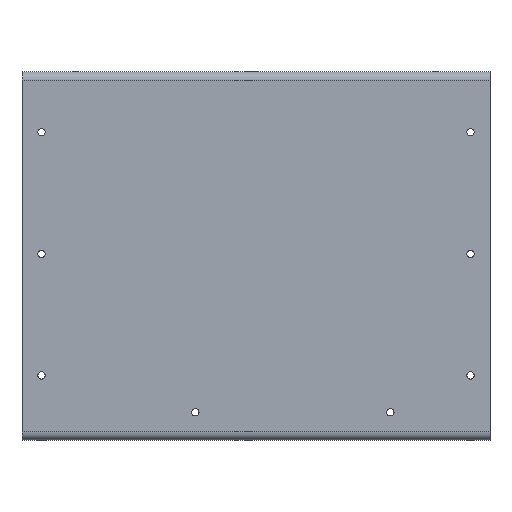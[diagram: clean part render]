
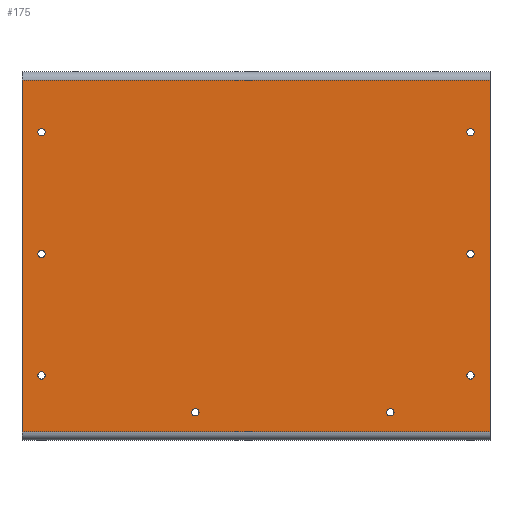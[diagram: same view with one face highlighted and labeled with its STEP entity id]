
A CAD part, left-side view. The second image highlights one B-rep face of the part: STEP entity #175.
In plain terms, the highlighted planar face has unit normal (-1, 0, 0).
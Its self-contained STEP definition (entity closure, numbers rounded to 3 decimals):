
#21 = EDGE_CURVE('',#22,#24,#26,.T.);
#22 = VERTEX_POINT('',#23);
#23 = CARTESIAN_POINT('',(0.,216.,4.));
#24 = VERTEX_POINT('',#25);
#25 = CARTESIAN_POINT('',(0.,216.,166.27));
#26 = LINE('',#27,#28);
#27 = CARTESIAN_POINT('',(0.,216.,0.));
#28 = VECTOR('',#29,1.);
#29 = DIRECTION('',(0.,0.,1.));
#175 = ADVANCED_FACE('',(#176,#201,#212,#223,#234,#245,#256,#267,#278),
  #289,.T.);
#176 = FACE_BOUND('',#177,.T.);
#177 = EDGE_LOOP('',(#178,#188,#194,#195));
#178 = ORIENTED_EDGE('',*,*,#179,.T.);
#179 = EDGE_CURVE('',#180,#182,#184,.T.);
#180 = VERTEX_POINT('',#181);
#181 = CARTESIAN_POINT('',(0.,0.,4.));
#182 = VERTEX_POINT('',#183);
#183 = CARTESIAN_POINT('',(0.,0.,166.27));
#184 = LINE('',#185,#186);
#185 = CARTESIAN_POINT('',(0.,0.,0.));
#186 = VECTOR('',#187,1.);
#187 = DIRECTION('',(0.,0.,1.));
#188 = ORIENTED_EDGE('',*,*,#189,.T.);
#189 = EDGE_CURVE('',#182,#24,#190,.T.);
#190 = LINE('',#191,#192);
#191 = CARTESIAN_POINT('',(0.,0.,166.27));
#192 = VECTOR('',#193,1.);
#193 = DIRECTION('',(-0.,1.,0.));
#194 = ORIENTED_EDGE('',*,*,#21,.F.);
#195 = ORIENTED_EDGE('',*,*,#196,.F.);
#196 = EDGE_CURVE('',#180,#22,#197,.T.);
#197 = LINE('',#198,#199);
#198 = CARTESIAN_POINT('',(0.,0.,4.));
#199 = VECTOR('',#200,1.);
#200 = DIRECTION('',(-0.,1.,0.));
#201 = FACE_BOUND('',#202,.T.);
#202 = EDGE_LOOP('',(#203));
#203 = ORIENTED_EDGE('',*,*,#204,.T.);
#204 = EDGE_CURVE('',#205,#205,#207,.T.);
#205 = VERTEX_POINT('',#206);
#206 = CARTESIAN_POINT('',(0.,207.,143.97));
#207 = CIRCLE('',#208,1.7);
#208 = AXIS2_PLACEMENT_3D('',#209,#210,#211);
#209 = CARTESIAN_POINT('',(0.,207.,142.27));
#210 = DIRECTION('',(1.,0.,0.));
#211 = DIRECTION('',(-0.,0.,1.));
#212 = FACE_BOUND('',#213,.T.);
#213 = EDGE_LOOP('',(#214));
#214 = ORIENTED_EDGE('',*,*,#215,.T.);
#215 = EDGE_CURVE('',#216,#216,#218,.T.);
#216 = VERTEX_POINT('',#217);
#217 = CARTESIAN_POINT('',(0.,207.,87.835));
#218 = CIRCLE('',#219,1.7);
#219 = AXIS2_PLACEMENT_3D('',#220,#221,#222);
#220 = CARTESIAN_POINT('',(0.,207.,86.135));
#221 = DIRECTION('',(1.,0.,0.));
#222 = DIRECTION('',(-0.,0.,1.));
#223 = FACE_BOUND('',#224,.T.);
#224 = EDGE_LOOP('',(#225));
#225 = ORIENTED_EDGE('',*,*,#226,.T.);
#226 = EDGE_CURVE('',#227,#227,#229,.T.);
#227 = VERTEX_POINT('',#228);
#228 = CARTESIAN_POINT('',(0.,207.,31.7));
#229 = CIRCLE('',#230,1.7);
#230 = AXIS2_PLACEMENT_3D('',#231,#232,#233);
#231 = CARTESIAN_POINT('',(0.,207.,30.));
#232 = DIRECTION('',(1.,0.,0.));
#233 = DIRECTION('',(-0.,0.,1.));
#234 = FACE_BOUND('',#235,.T.);
#235 = EDGE_LOOP('',(#236));
#236 = ORIENTED_EDGE('',*,*,#237,.T.);
#237 = EDGE_CURVE('',#238,#238,#240,.T.);
#238 = VERTEX_POINT('',#239);
#239 = CARTESIAN_POINT('',(0.,136.,14.7));
#240 = CIRCLE('',#241,1.7);
#241 = AXIS2_PLACEMENT_3D('',#242,#243,#244);
#242 = CARTESIAN_POINT('',(0.,136.,13.));
#243 = DIRECTION('',(1.,0.,0.));
#244 = DIRECTION('',(-0.,0.,1.));
#245 = FACE_BOUND('',#246,.T.);
#246 = EDGE_LOOP('',(#247));
#247 = ORIENTED_EDGE('',*,*,#248,.T.);
#248 = EDGE_CURVE('',#249,#249,#251,.T.);
#249 = VERTEX_POINT('',#250);
#250 = CARTESIAN_POINT('',(0.,9.,143.97));
#251 = CIRCLE('',#252,1.7);
#252 = AXIS2_PLACEMENT_3D('',#253,#254,#255);
#253 = CARTESIAN_POINT('',(0.,9.,142.27));
#254 = DIRECTION('',(1.,0.,0.));
#255 = DIRECTION('',(-0.,0.,1.));
#256 = FACE_BOUND('',#257,.T.);
#257 = EDGE_LOOP('',(#258));
#258 = ORIENTED_EDGE('',*,*,#259,.T.);
#259 = EDGE_CURVE('',#260,#260,#262,.T.);
#260 = VERTEX_POINT('',#261);
#261 = CARTESIAN_POINT('',(0.,9.,87.835));
#262 = CIRCLE('',#263,1.7);
#263 = AXIS2_PLACEMENT_3D('',#264,#265,#266);
#264 = CARTESIAN_POINT('',(0.,9.,86.135));
#265 = DIRECTION('',(1.,0.,0.));
#266 = DIRECTION('',(-0.,0.,1.));
#267 = FACE_BOUND('',#268,.T.);
#268 = EDGE_LOOP('',(#269));
#269 = ORIENTED_EDGE('',*,*,#270,.T.);
#270 = EDGE_CURVE('',#271,#271,#273,.T.);
#271 = VERTEX_POINT('',#272);
#272 = CARTESIAN_POINT('',(0.,46.,14.7));
#273 = CIRCLE('',#274,1.7);
#274 = AXIS2_PLACEMENT_3D('',#275,#276,#277);
#275 = CARTESIAN_POINT('',(0.,46.,13.));
#276 = DIRECTION('',(1.,0.,0.));
#277 = DIRECTION('',(-0.,0.,1.));
#278 = FACE_BOUND('',#279,.T.);
#279 = EDGE_LOOP('',(#280));
#280 = ORIENTED_EDGE('',*,*,#281,.T.);
#281 = EDGE_CURVE('',#282,#282,#284,.T.);
#282 = VERTEX_POINT('',#283);
#283 = CARTESIAN_POINT('',(0.,9.,31.7));
#284 = CIRCLE('',#285,1.7);
#285 = AXIS2_PLACEMENT_3D('',#286,#287,#288);
#286 = CARTESIAN_POINT('',(0.,9.,30.));
#287 = DIRECTION('',(1.,0.,0.));
#288 = DIRECTION('',(-0.,0.,1.));
#289 = PLANE('',#290);
#290 = AXIS2_PLACEMENT_3D('',#291,#292,#293);
#291 = CARTESIAN_POINT('',(0.,108.,85.135));
#292 = DIRECTION('',(-1.,-0.,-0.));
#293 = DIRECTION('',(0.,0.,-1.));
